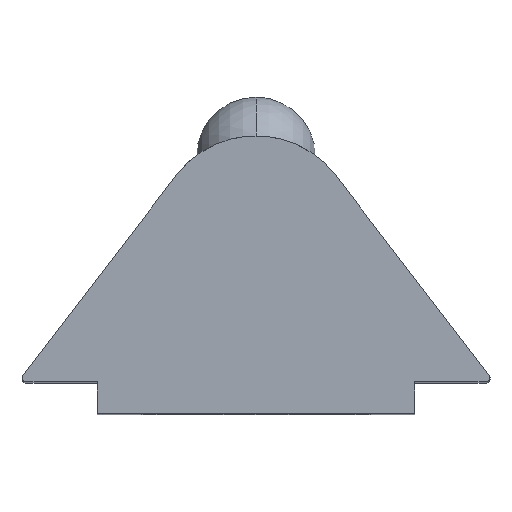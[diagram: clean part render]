
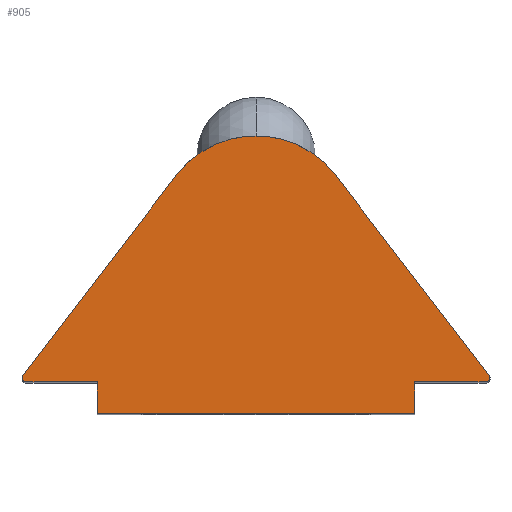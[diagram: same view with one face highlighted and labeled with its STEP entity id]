
A CAD part, top view. The second image highlights one B-rep face of the part: STEP entity #905.
In plain terms, the highlighted planar face has unit normal (0, 0, 1).
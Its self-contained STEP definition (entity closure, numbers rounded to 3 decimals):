
#56 = DIRECTION ( 'NONE',  ( -0.609, 0.793, 0. ) ) ;
#91 = CARTESIAN_POINT ( 'NONE',  ( 5.797, 0.9, 10. ) ) ;
#148 = LINE ( 'NONE', #601, #444 ) ;
#196 = CARTESIAN_POINT ( 'NONE',  ( 0., 0.8, 10. ) ) ;
#210 = EDGE_CURVE ( 'NONE', #2461, #461, #1953, .T. ) ;
#330 = EDGE_CURVE ( 'NONE', #2869, #1620, #1747, .T. ) ;
#362 = CARTESIAN_POINT ( 'NONE',  ( 4., 0.8, 10. ) ) ;
#375 = EDGE_CURVE ( 'NONE', #1723, #380, #2582, .T. ) ;
#379 = EDGE_CURVE ( 'NONE', #385, #2976, #826, .T. ) ;
#380 = VERTEX_POINT ( 'NONE', #1598 ) ;
#385 = VERTEX_POINT ( 'NONE', #2371 ) ;
#417 = ORIENTED_EDGE ( 'NONE', *, *, #420, .T. ) ;
#420 = EDGE_CURVE ( 'NONE', #1439, #2869, #2272, .T. ) ;
#438 = DIRECTION ( 'NONE',  ( 1., 0., 0. ) ) ;
#444 = VECTOR ( 'NONE', #1796, 1000. ) ;
#461 = VERTEX_POINT ( 'NONE', #2597 ) ;
#475 = CARTESIAN_POINT ( 'NONE',  ( 0., 0., 10. ) ) ;
#476 = VECTOR ( 'NONE', #2583, 1000. ) ;
#530 = EDGE_CURVE ( 'NONE', #923, #385, #2429, .T. ) ;
#579 = CARTESIAN_POINT ( 'NONE',  ( 0., 4.479, 10. ) ) ;
#580 = ORIENTED_EDGE ( 'NONE', *, *, #210, .T. ) ;
#601 = CARTESIAN_POINT ( 'NONE',  ( 0., 0., 10. ) ) ;
#640 = CARTESIAN_POINT ( 'NONE',  ( -5.797, 0.9, 10. ) ) ;
#783 = ORIENTED_EDGE ( 'NONE', *, *, #2039, .T. ) ;
#799 = DIRECTION ( 'NONE',  ( 0., 0., 1. ) ) ;
#813 = ORIENTED_EDGE ( 'NONE', *, *, #1047, .T. ) ;
#826 = LINE ( 'NONE', #196, #1265 ) ;
#895 = VECTOR ( 'NONE', #2572, 1000. ) ;
#905 = ADVANCED_FACE ( 'NONE', ( #2348 ), #938, .T. ) ;
#923 = VERTEX_POINT ( 'NONE', #1179 ) ;
#938 = PLANE ( 'NONE',  #1461 ) ;
#942 = CARTESIAN_POINT ( 'NONE',  ( 4., 0., 10. ) ) ;
#968 = ORIENTED_EDGE ( 'NONE', *, *, #1502, .F. ) ;
#1024 = DIRECTION ( 'NONE',  ( -1., 0., 0. ) ) ;
#1047 = EDGE_CURVE ( 'NONE', #461, #1528, #2267, .T. ) ;
#1064 = DIRECTION ( 'NONE',  ( 0., 0., 1. ) ) ;
#1123 = VECTOR ( 'NONE', #1191, 1000. ) ;
#1162 = CARTESIAN_POINT ( 'NONE',  ( -4., 0., 10. ) ) ;
#1179 = CARTESIAN_POINT ( 'NONE',  ( -4., 0., 10. ) ) ;
#1191 = DIRECTION ( 'NONE',  ( 1., 0., 0. ) ) ;
#1221 = VECTOR ( 'NONE', #56, 1000. ) ;
#1224 = VECTOR ( 'NONE', #2670, 1000. ) ;
#1227 = CARTESIAN_POINT ( 'NONE',  ( -2., 6.014, 10. ) ) ;
#1265 = VECTOR ( 'NONE', #2609, 1000. ) ;
#1330 = ORIENTED_EDGE ( 'NONE', *, *, #330, .T. ) ;
#1358 = DIRECTION ( 'NONE',  ( 1., 0., 0. ) ) ;
#1402 = DIRECTION ( 'NONE',  ( 0., 0., 1. ) ) ;
#1439 = VERTEX_POINT ( 'NONE', #1441 ) ;
#1441 = CARTESIAN_POINT ( 'NONE',  ( 4., 0., 10. ) ) ;
#1461 = AXIS2_PLACEMENT_3D ( 'NONE', #475, #2380, #438 ) ;
#1502 = EDGE_CURVE ( 'NONE', #1723, #1528, #1848, .T. ) ;
#1514 = DIRECTION ( 'NONE',  ( 1., 0., 0. ) ) ;
#1528 = VERTEX_POINT ( 'NONE', #1227 ) ;
#1573 = CIRCLE ( 'NONE', #2987, 0.1 ) ;
#1586 = ORIENTED_EDGE ( 'NONE', *, *, #379, .F. ) ;
#1598 = CARTESIAN_POINT ( 'NONE',  ( -5.897, 0.9, 10. ) ) ;
#1620 = VERTEX_POINT ( 'NONE', #2908 ) ;
#1646 = ORIENTED_EDGE ( 'NONE', *, *, #1981, .F. ) ;
#1684 = CARTESIAN_POINT ( 'NONE',  ( -4.163, 3.194, 10. ) ) ;
#1694 = CARTESIAN_POINT ( 'NONE',  ( 4.163, 3.194, 10. ) ) ;
#1723 = VERTEX_POINT ( 'NONE', #2682 ) ;
#1747 = LINE ( 'NONE', #2632, #1123 ) ;
#1784 = EDGE_CURVE ( 'NONE', #1620, #2461, #1573, .T. ) ;
#1796 = DIRECTION ( 'NONE',  ( -1., 0., 0. ) ) ;
#1848 = LINE ( 'NONE', #1684, #1224 ) ;
#1873 = ORIENTED_EDGE ( 'NONE', *, *, #1784, .T. ) ;
#1933 = ORIENTED_EDGE ( 'NONE', *, *, #530, .F. ) ;
#1953 = LINE ( 'NONE', #1694, #1221 ) ;
#1981 = EDGE_CURVE ( 'NONE', #1439, #923, #148, .T. ) ;
#2037 = CARTESIAN_POINT ( 'NONE',  ( -5.797, 0.8, 10. ) ) ;
#2039 = EDGE_CURVE ( 'NONE', #380, #2976, #2520, .T. ) ;
#2053 = AXIS2_PLACEMENT_3D ( 'NONE', #2861, #1402, #2622 ) ;
#2059 = ORIENTED_EDGE ( 'NONE', *, *, #375, .T. ) ;
#2267 = CIRCLE ( 'NONE', #3085, 2.521 ) ;
#2272 = LINE ( 'NONE', #942, #895 ) ;
#2309 = DIRECTION ( 'NONE',  ( 0., 0., 1. ) ) ;
#2348 = FACE_OUTER_BOUND ( 'NONE', #2843, .T. ) ;
#2371 = CARTESIAN_POINT ( 'NONE',  ( -4., 0.8, 10. ) ) ;
#2380 = DIRECTION ( 'NONE',  ( 0., 0., 1. ) ) ;
#2429 = LINE ( 'NONE', #1162, #476 ) ;
#2461 = VERTEX_POINT ( 'NONE', #2605 ) ;
#2520 = CIRCLE ( 'NONE', #2607, 0.1 ) ;
#2572 = DIRECTION ( 'NONE',  ( 0., 1., 0. ) ) ;
#2582 = CIRCLE ( 'NONE', #2053, 0.1 ) ;
#2583 = DIRECTION ( 'NONE',  ( 0., 1., 0. ) ) ;
#2597 = CARTESIAN_POINT ( 'NONE',  ( 2., 6.014, 10. ) ) ;
#2605 = CARTESIAN_POINT ( 'NONE',  ( 5.877, 0.961, 10. ) ) ;
#2607 = AXIS2_PLACEMENT_3D ( 'NONE', #640, #2309, #1358 ) ;
#2609 = DIRECTION ( 'NONE',  ( -1., 0., 0. ) ) ;
#2622 = DIRECTION ( 'NONE',  ( 1., 0., 0. ) ) ;
#2632 = CARTESIAN_POINT ( 'NONE',  ( 0., 0.8, 10. ) ) ;
#2670 = DIRECTION ( 'NONE',  ( 0.609, 0.793, 0. ) ) ;
#2682 = CARTESIAN_POINT ( 'NONE',  ( -5.877, 0.961, 10. ) ) ;
#2843 = EDGE_LOOP ( 'NONE', ( #968, #2059, #783, #1586, #1933, #1646, #417, #1330, #1873, #580, #813 ) ) ;
#2861 = CARTESIAN_POINT ( 'NONE',  ( -5.797, 0.9, 10. ) ) ;
#2869 = VERTEX_POINT ( 'NONE', #362 ) ;
#2908 = CARTESIAN_POINT ( 'NONE',  ( 5.797, 0.8, 10. ) ) ;
#2976 = VERTEX_POINT ( 'NONE', #2037 ) ;
#2987 = AXIS2_PLACEMENT_3D ( 'NONE', #91, #799, #1514 ) ;
#3085 = AXIS2_PLACEMENT_3D ( 'NONE', #579, #1064, #1024 ) ;
